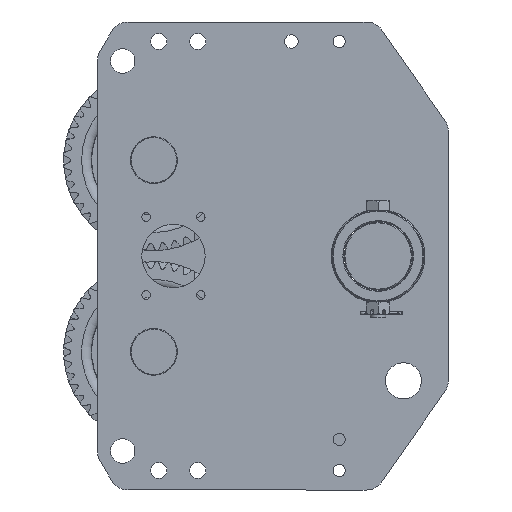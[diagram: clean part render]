
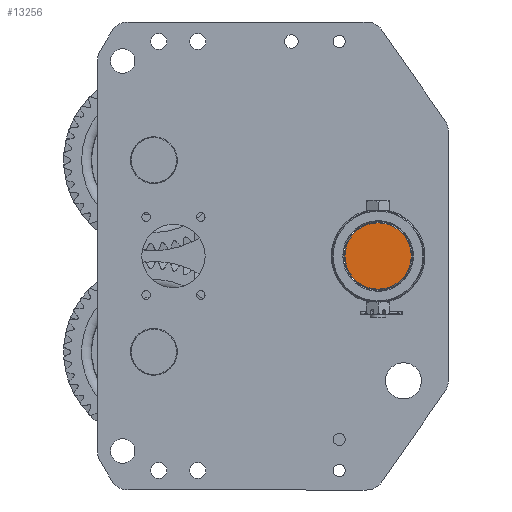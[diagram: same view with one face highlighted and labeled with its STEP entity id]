
A CAD part, left-side view. The second image highlights one B-rep face of the part: STEP entity #13256.
In plain terms, the highlighted planar face has unit normal (-1, 0, 0) as drawn and (0, 0, 1) by its records, which use the part's own axes.
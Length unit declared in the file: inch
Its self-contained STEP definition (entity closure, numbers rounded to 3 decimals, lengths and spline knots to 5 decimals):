
#93 = EDGE_CURVE ( 'NONE', #36754, #16273, #21245, .T. ) ;
#620 = PLANE ( 'NONE',  #4599 ) ;
#4286 = FACE_OUTER_BOUND ( 'NONE', #17655, .T. ) ;
#4599 = AXIS2_PLACEMENT_3D ( 'NONE', #20230, #47669, #8474 ) ;
#4634 = CARTESIAN_POINT ( 'NONE',  ( -1.33858, 0., 22.83465 ) ) ;
#5475 = DIRECTION ( 'NONE',  ( 1., 0., 0. ) ) ;
#8474 = DIRECTION ( 'NONE',  ( 1., 0., 0. ) ) ;
#12405 = AXIS2_PLACEMENT_3D ( 'NONE', #12840, #21188, #5475 ) ;
#12840 = CARTESIAN_POINT ( 'NONE',  ( 0., 0., 22.83465 ) ) ;
#13256 = ADVANCED_FACE ( 'NONE', ( #4286 ), #620, .T. ) ;
#16273 = VERTEX_POINT ( 'NONE', #49837 ) ;
#17655 = EDGE_LOOP ( 'NONE', ( #25472, #35708 ) ) ;
#17659 = CARTESIAN_POINT ( 'NONE',  ( 0., 0., 22.83465 ) ) ;
#18731 = AXIS2_PLACEMENT_3D ( 'NONE', #17659, #33830, #49754 ) ;
#20230 = CARTESIAN_POINT ( 'NONE',  ( 0., 0., 22.83465 ) ) ;
#21188 = DIRECTION ( 'NONE',  ( 0., 0., 1. ) ) ;
#21245 = CIRCLE ( 'NONE', #18731, 1.33858 ) ;
#25472 = ORIENTED_EDGE ( 'NONE', *, *, #93, .T. ) ;
#33830 = DIRECTION ( 'NONE',  ( 0., 0., 1. ) ) ;
#35708 = ORIENTED_EDGE ( 'NONE', *, *, #50036, .T. ) ;
#36754 = VERTEX_POINT ( 'NONE', #4634 ) ;
#47669 = DIRECTION ( 'NONE',  ( 0., 0., 1. ) ) ;
#49754 = DIRECTION ( 'NONE',  ( 1., 0., 0. ) ) ;
#49837 = CARTESIAN_POINT ( 'NONE',  ( 1.33858, 0., 22.83465 ) ) ;
#50036 = EDGE_CURVE ( 'NONE', #16273, #36754, #50614, .T. ) ;
#50614 = CIRCLE ( 'NONE', #12405, 1.33858 ) ;
